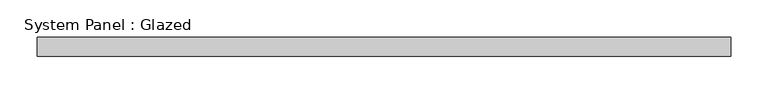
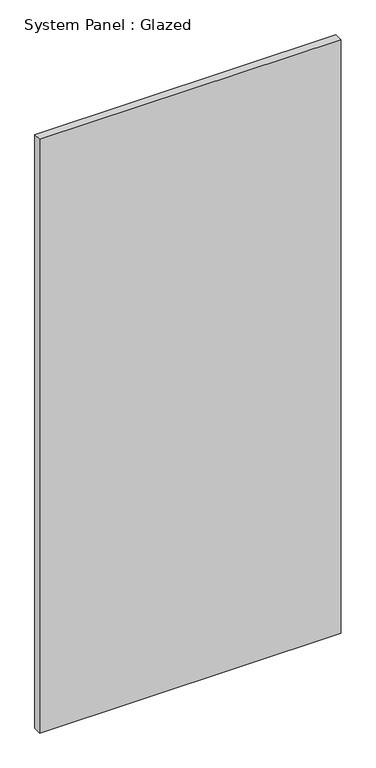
"""IFC4 building model written with IfcOpenShell, lengths in millimetres: plate geometry, System Panel : Glazed."""

from ifc_helpers import new_model, si_unit, origin, origin_with_axes, place, context, project, spatial, polyline, outline, extrude, source, transform, mapped, element, save


def system_panel_glazed_c24add6e(model_context):
    return source(origin(), model_context, "Body", "SweptSolid", [
        extrude(outline(polyline([(462.5, -49.5), (-462.5, -49.5), (-462.5, -24.5), (462.5, -24.5), (462.5, -49.5)])), origin_with_axes(), (0.0, 0.0, 1.0), 1925.0),
    ])


if __name__ == "__main__":
    model = new_model("IFC4")
    model_context = context("Model", 3, world=origin())
    ifc_project = project(units=[si_unit("LENGTHUNIT", "METRE", prefix="MILLI")], contexts=[model_context])
    site = spatial("IfcSite", under=ifc_project)
    building = spatial("IfcBuilding", under=site)
    placement = place(None, origin())
    system_panel_glazed_shape = system_panel_glazed_c24add6e(model_context)
    element("IfcPlate", 1, ObjectType="System Panel : Glazed", at=placement, inside=building, context=model_context, shape_type="MappedRepresentation", body=[
        mapped(system_panel_glazed_shape, transform((0.0, 0.0, 0.0), x_axis=(1.0, 0.0, 0.0), y_axis=(0.0, 1.0, 0.0), z_axis=(0.0, 0.0, 1.0))),
    ])
    save(model, "model.ifc")
